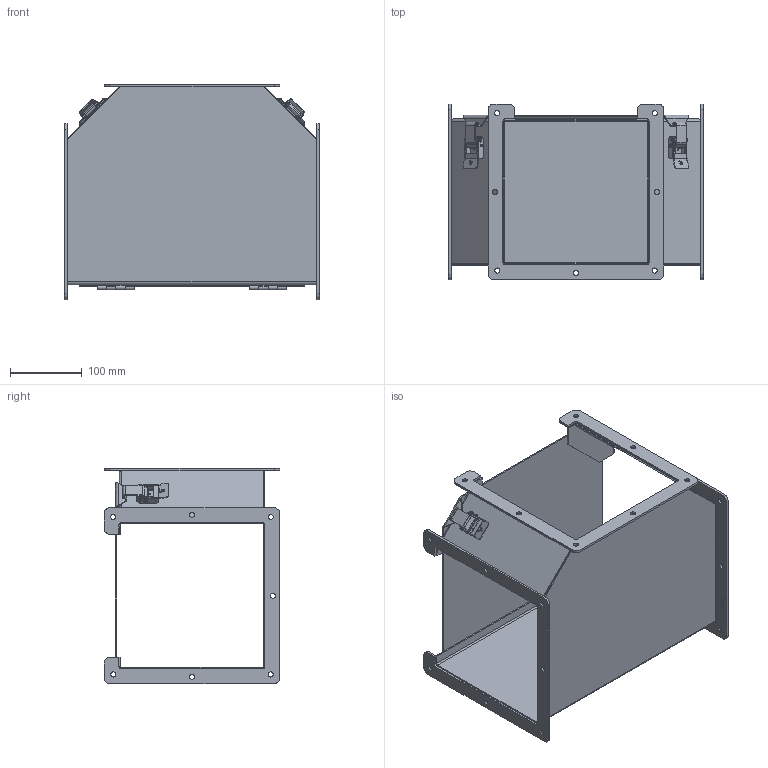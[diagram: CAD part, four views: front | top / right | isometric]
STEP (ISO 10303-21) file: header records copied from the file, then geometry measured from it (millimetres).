
FILE_DESCRIPTION (( 'STEP AP203' ), '1' );
FILE_NAME ('f88lta.STEP', '2013-08-01T09:30:54', ( '' ), ( '' ), 'SwSTEP 2.0', 'SolidWorks 2010', '' );
FILE_SCHEMA (( 'CONFIG_CONTROL_DESIGN' ));
Length unit declared in the file: inch
Products named in the file (18): 89078257; 18254007; 18125001; 89078252_CLOSED; 18235029; 14102015_CLOSE; 14136001; 14102015_FLEX; 89047819_89047041; 89047821; 14137001; 14138001; 89047820; 14141001_CLOSED; 21121001; 18234023; 89078253_CLOSED; f88lta
Assembly tree (28 placements, depth 5):
  f88lta
    14141001_CLOSED  x3
      21121001
      14138001
      14137001
    89078253_CLOSED
      89078257  x2
        14136001
        18254007
      89078252_CLOSED
        18235029
        14102015_CLOSE
          89047821
          89047819_89047041
          89047820
        14102015_FLEX
          89047819_89047041
          89047820
          89047821
      18234023
      18125001  x3
    21121001  x3
Bounding box: 354.08 x 244.53 x 299.36 mm (x, y, z)
Volume: 705240.4 mm3; surface area: 738399.7 mm2
Topology: 27 solids, 27 shells, 1633 faces, 4268 edges, 2746 vertices
Faces by surface type: plane 733, bspline 495, cylinder 333, torus 48, cone 24
Entity records: 36333 total; most frequent: CARTESIAN_POINT 19071, ORIENTED_EDGE 3408, DIRECTION 2548, EDGE_CURVE 1704, VERTEX_POINT 1095, VECTOR 1006, LINE 1006, AXIS2_PLACEMENT_3D 771
